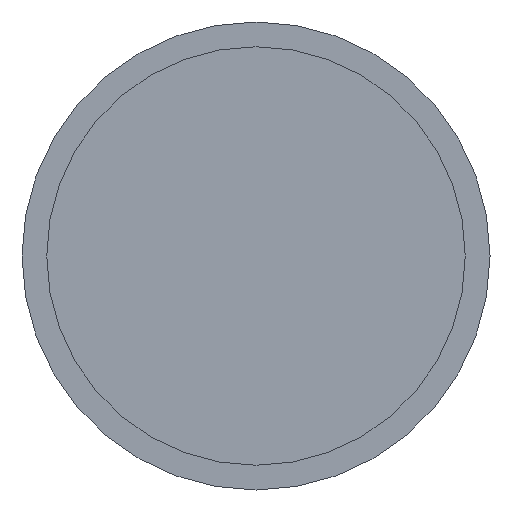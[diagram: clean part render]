
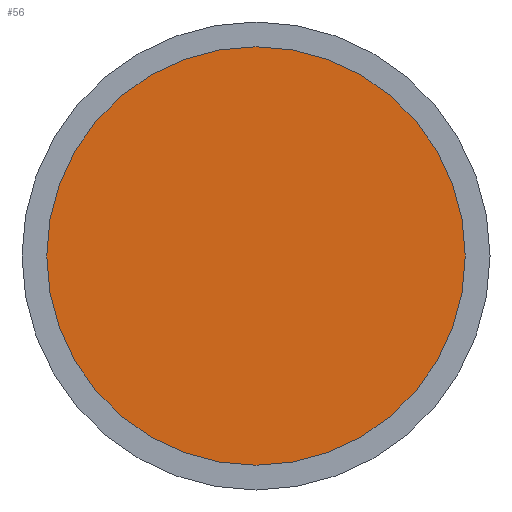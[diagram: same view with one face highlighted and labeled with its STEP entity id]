
A CAD part, front view. The second image highlights one B-rep face of the part: STEP entity #56.
In plain terms, the highlighted planar face has unit normal (0, -1, 0).
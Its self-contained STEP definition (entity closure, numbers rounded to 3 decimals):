
#56=ADVANCED_FACE('',(#93),#95,.T.);
#93=FACE_BOUND('',#94,.T.);
#94=EDGE_LOOP('',(#204));
#95=PLANE('',#96);
#96=AXIS2_PLACEMENT_3D('',#97,#98,#99);
#97=CARTESIAN_POINT('',(0.,-58.,0.));
#98=DIRECTION('',(0.,-1.,0.));
#99=DIRECTION('',(0.,0.,-1.));
#204=ORIENTED_EDGE('',*,*,#229,.T.);
#229=EDGE_CURVE('',#244,#244,#245,.T.);
#244=VERTEX_POINT('',#274);
#245=CIRCLE('',#275,12.52);
#274=CARTESIAN_POINT('',(0.,-58.,12.52));
#275=AXIS2_PLACEMENT_3D('',#276,#277,#278);
#276=CARTESIAN_POINT('',(0.,-58.,0.));
#277=DIRECTION('',(0.,-1.,0.));
#278=DIRECTION('',(0.,0.,1.));
